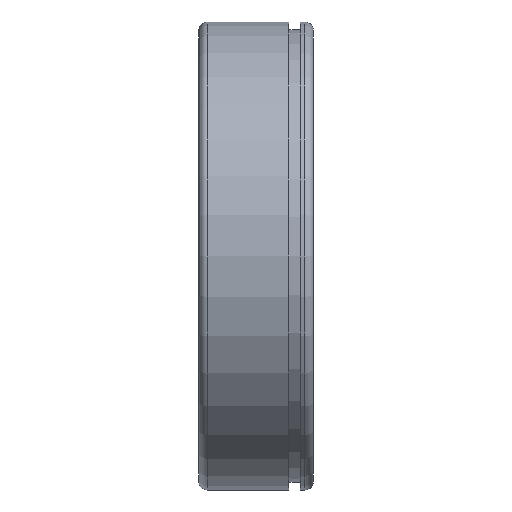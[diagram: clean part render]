
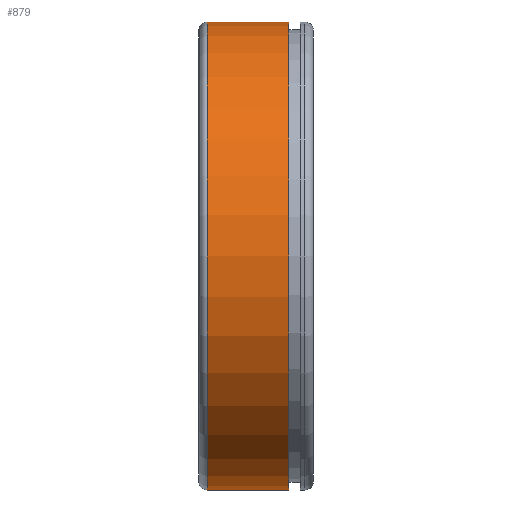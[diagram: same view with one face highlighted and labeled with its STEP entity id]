
A CAD part, front view. The second image highlights one B-rep face of the part: STEP entity #879.
In plain terms, the highlighted cylindrical face has radius 55 mm (diameter 110 mm), a full revolution.
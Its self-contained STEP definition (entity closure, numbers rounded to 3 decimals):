
#147=CYLINDRICAL_SURFACE($,#1023,55.);
#166=FACE_BOUND($,#288,.T.);
#220=FACE_OUTER_BOUND($,#287,.T.);
#287=EDGE_LOOP($,(#809));
#288=EDGE_LOOP($,(#810));
#381=CIRCLE($,#1022,55.);
#382=CIRCLE($,#1024,55.);
#467=VERTEX_POINT($,#2274);
#468=VERTEX_POINT($,#2277);
#584=EDGE_CURVE($,#467,#467,#381,.T.);
#585=EDGE_CURVE($,#468,#468,#382,.T.);
#809=ORIENTED_EDGE($,*,*,#585,.T.);
#810=ORIENTED_EDGE($,*,*,#584,.T.);
#879=ADVANCED_FACE($,(#220,#166),#147,.T.);
#1022=AXIS2_PLACEMENT_3D($,#2275,#1305,#1306);
#1023=AXIS2_PLACEMENT_3D($,#2276,#1307,#1308);
#1024=AXIS2_PLACEMENT_3D($,#2278,#1309,#1310);
#1305=DIRECTION('center_axis',(-1.,0.,0.));
#1306=DIRECTION('ref_axis',(0.,1.,0.));
#1307=DIRECTION('center_axis',(1.,0.,0.));
#1308=DIRECTION('ref_axis',(0.,1.,0.));
#1309=DIRECTION('center_axis',(1.,0.,0.));
#1310=DIRECTION('ref_axis',(0.,0.,-1.));
#2274=CARTESIAN_POINT('',(7.73,55.,0.));
#2275=CARTESIAN_POINT('Origin',(7.73,0.,0.));
#2276=CARTESIAN_POINT('Origin',(0.,0.,0.));
#2277=CARTESIAN_POINT('',(-11.5,55.,0.));
#2278=CARTESIAN_POINT('Origin',(-11.5,0.,0.));
